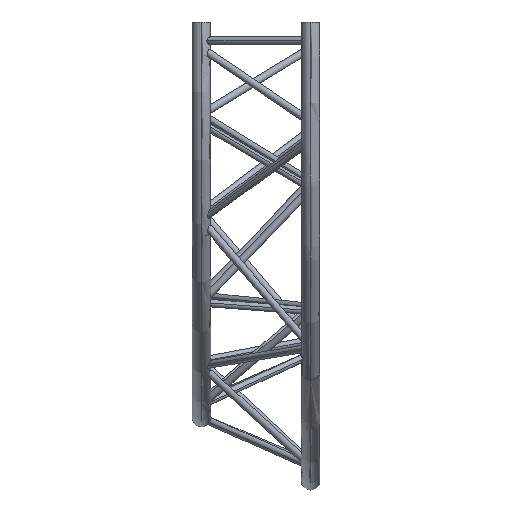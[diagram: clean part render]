
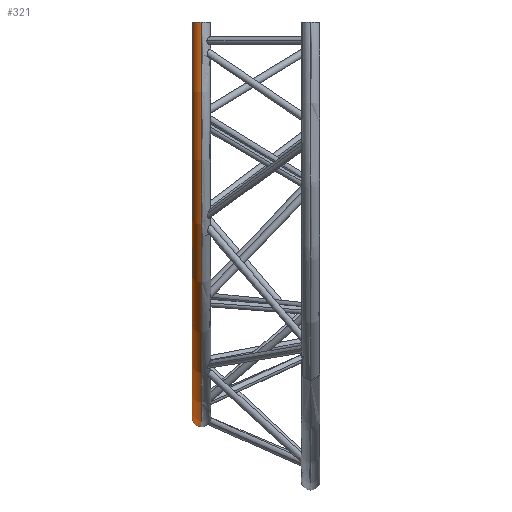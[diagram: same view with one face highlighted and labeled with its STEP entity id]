
A CAD part, left-side view. The second image highlights one B-rep face of the part: STEP entity #321.
In plain terms, the highlighted toroidal (fillet/blend) face has major radius 1056.5 mm and minor radius 25 mm.
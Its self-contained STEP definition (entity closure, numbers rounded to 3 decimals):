
#73 = EDGE_CURVE ( 'NONE', #509, #1000, #5932, .T. ) ;
#87 = EDGE_CURVE ( 'NONE', #510, #1039, #6027, .T. ) ;
#302 = EDGE_LOOP ( 'NONE', ( #318, #316, #324, #320 ) ) ;
#312 = EDGE_CURVE ( 'NONE', #509, #510, #7567, .T. ) ;
#316 = ORIENTED_EDGE ( 'NONE', *, *, #312, .T. ) ;
#318 = ORIENTED_EDGE ( 'NONE', *, *, #73, .F. ) ;
#320 = ORIENTED_EDGE ( 'NONE', *, *, #325, .T. ) ;
#321 = ADVANCED_FACE ( 'NONE', ( #7624 ), #7622, .T. ) ;
#324 = ORIENTED_EDGE ( 'NONE', *, *, #87, .T. ) ;
#325 = EDGE_CURVE ( 'NONE', #1039, #1000, #7623, .T. ) ;
#509 = VERTEX_POINT ( 'NONE', #8626 ) ;
#510 = VERTEX_POINT ( 'NONE', #8712 ) ;
#1000 = VERTEX_POINT ( 'NONE', #10594 ) ;
#1039 = VERTEX_POINT ( 'NONE', #10765 ) ;
#5928 = DIRECTION ( 'NONE',  ( 0., 0., -1. ) ) ;
#5929 = DIRECTION ( 'NONE',  ( 0., -1., 0. ) ) ;
#5930 = CARTESIAN_POINT ( 'NONE',  ( 0., 194.567, 0. ) ) ;
#5931 = AXIS2_PLACEMENT_3D ( 'NONE', #5930, #5929, #5928 ) ;
#5932 = CIRCLE ( 'NONE', #5931, 1081.5 ) ;
#6027 = CIRCLE ( 'NONE', #6054, 1031.5 ) ;
#6051 = DIRECTION ( 'NONE',  ( 0., 0., -1. ) ) ;
#6052 = DIRECTION ( 'NONE',  ( 0., -1., 0. ) ) ;
#6053 = CARTESIAN_POINT ( 'NONE',  ( 0., 194.567, 0. ) ) ;
#6054 = AXIS2_PLACEMENT_3D ( 'NONE', #6053, #6052, #6051 ) ;
#7567 = CIRCLE ( 'NONE', #7646, 25. ) ;
#7614 = DIRECTION ( 'NONE',  ( 0., 0., 1. ) ) ;
#7615 = DIRECTION ( 'NONE',  ( -1., 0., 0. ) ) ;
#7616 = CARTESIAN_POINT ( 'NONE',  ( 0., 194.567, -1056.5 ) ) ;
#7617 = AXIS2_PLACEMENT_3D ( 'NONE', #7616, #7615, #7614 ) ;
#7618 = DIRECTION ( 'NONE',  ( 0., 0., -1. ) ) ;
#7619 = DIRECTION ( 'NONE',  ( 0., -1., 0. ) ) ;
#7620 = CARTESIAN_POINT ( 'NONE',  ( 0., 194.567, 0. ) ) ;
#7621 = AXIS2_PLACEMENT_3D ( 'NONE', #7620, #7619, #7618 ) ;
#7622 = TOROIDAL_SURFACE ( 'NONE', #7621, 1056.5, 25. ) ;
#7623 = CIRCLE ( 'NONE', #7617, 25. ) ;
#7624 = FACE_OUTER_BOUND ( 'NONE', #302, .T. ) ;
#7643 = DIRECTION ( 'NONE',  ( -1., 0., 0. ) ) ;
#7644 = DIRECTION ( 'NONE',  ( 0., 0., -1. ) ) ;
#7645 = CARTESIAN_POINT ( 'NONE',  ( -1056.5, 194.567, 0. ) ) ;
#7646 = AXIS2_PLACEMENT_3D ( 'NONE', #7645, #7644, #7643 ) ;
#8626 = CARTESIAN_POINT ( 'NONE',  ( -1081.5, 194.567, 0. ) ) ;
#8712 = CARTESIAN_POINT ( 'NONE',  ( -1031.5, 194.567, 0. ) ) ;
#10594 = CARTESIAN_POINT ( 'NONE',  ( 0., 194.567, -1081.5 ) ) ;
#10765 = CARTESIAN_POINT ( 'NONE',  ( 0., 194.567, -1031.5 ) ) ;
